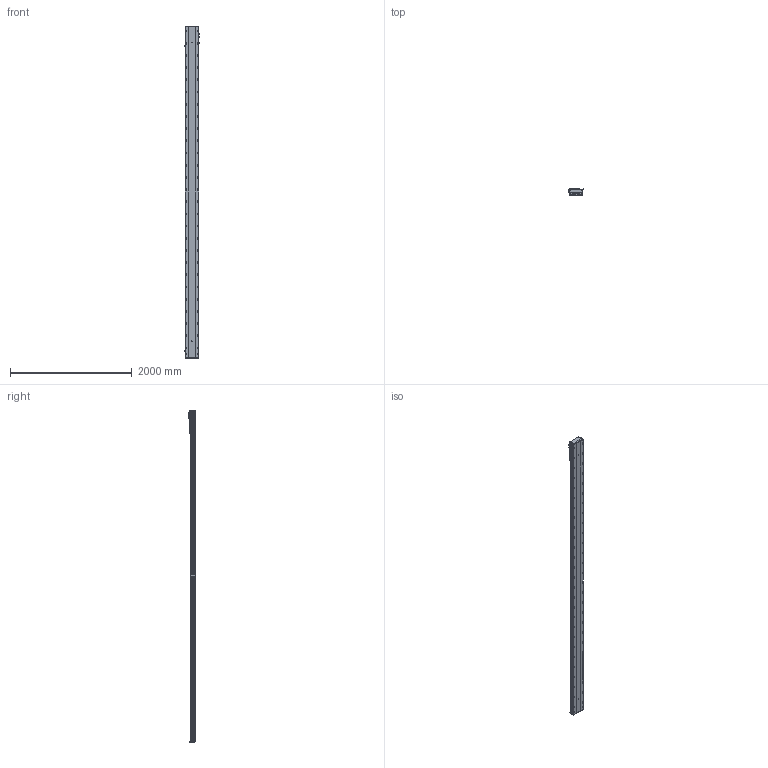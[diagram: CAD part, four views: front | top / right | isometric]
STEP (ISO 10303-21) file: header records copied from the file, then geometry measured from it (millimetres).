
FILE_DESCRIPTION (( 'STEP AP203' ), '1' );
FILE_NAME ('BEH22-A-M2-5000-L1-¦Õ22-PCD100-M6-C3.STEP', '2022-06-21T06:41:38', ( 'CXY' ), ( 'BT' ), 'SwSTEP 2.0', 'SolidWorks 2016', '' );
FILE_SCHEMA (( 'CONFIG_CONTROL_DESIGN' ));
Products named in the file (12): FS-01-10（10毫米）; _G-M6; FS-25-6.66-M2-H22K6; BEH22-04-01_L; FS-02-BTH22; BEH22-07-PCD100-80-M6; 萇儂階踡輸; BEH22-04-F; BEH22-B-01-XX-2; BTH22-07-DZ; BEH22-A-M2-5000-L1-耳22-PCD100-M6-C3; PM-T65
Assembly tree (18 placements, depth 3):
  BEH22-A-M2-5000-L1-耳22-PCD100-M6-C3
    BEH22-B-01-XX-2
    BTH22-07-DZ  x2
    PM-T65  x2
    BEH22-04-01_L
      BEH22-04-F
      萇儂階踡輸
      _G-M6  x3
      FS-02-BTH22
      FS-01-10（10毫米）  x4
      BEH22-07-PCD100-80-M6
      FS-25-6.66-M2-H22K6
Bounding box: 247.7 x 111 x 5448 mm (x, y, z)
Volume: 55494188.9 mm3; surface area: 5336251.4 mm2
Topology: 21 solids, 21 shells, 2976 faces, 9004 edges, 5882 vertices
Faces by surface type: cylinder 1648, plane 1036, cone 233, bspline 37, torus 22
Entity records: 494884 total; most frequent: CARTESIAN_POINT 424991, ORIENTED_EDGE 15828, DIRECTION 12822, EDGE_CURVE 7914, VERTEX_POINT 5242, AXIS2_PLACEMENT_3D 4660, VECTOR 3502, LINE 3502
